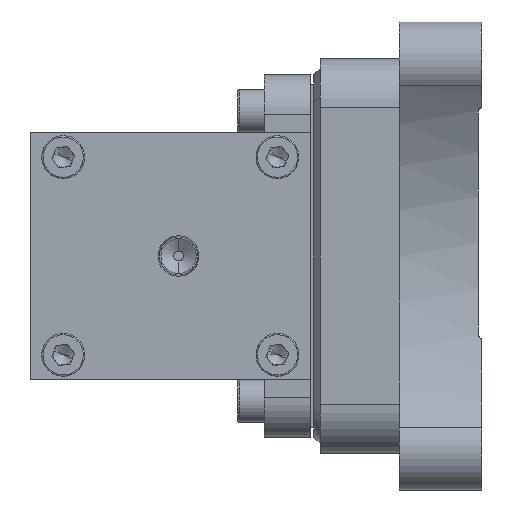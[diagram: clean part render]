
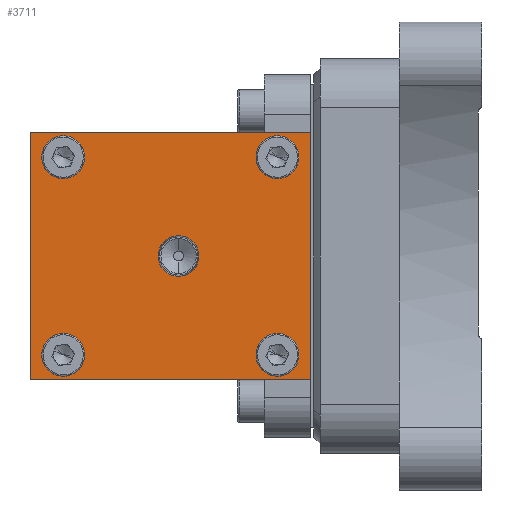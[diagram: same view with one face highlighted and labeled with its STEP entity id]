
A CAD part, left-side view. The second image highlights one B-rep face of the part: STEP entity #3711.
In plain terms, the highlighted planar face has unit normal (-1, 0, 0) as drawn and (1, 0, 0) by its records, which use the part's own axes.
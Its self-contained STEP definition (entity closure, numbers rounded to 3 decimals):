
#48 = EDGE_LOOP ( 'NONE', ( #8311, #9078 ) ) ;
#81 = EDGE_CURVE ( 'NONE', #3548, #6862, #902, .T. ) ;
#244 = DIRECTION ( 'NONE',  ( 0., 0., -1. ) ) ;
#336 = ORIENTED_EDGE ( 'NONE', *, *, #8266, .F. ) ;
#359 = CARTESIAN_POINT ( 'NONE',  ( 93., 41., 0. ) ) ;
#612 = VECTOR ( 'NONE', #742, 1000. ) ;
#730 = CIRCLE ( 'NONE', #2223, 4. ) ;
#742 = DIRECTION ( 'NONE',  ( 0., 0., -1. ) ) ;
#893 = FACE_BOUND ( 'NONE', #5819, .T. ) ;
#901 = ORIENTED_EDGE ( 'NONE', *, *, #2949, .F. ) ;
#902 = CIRCLE ( 'NONE', #8442, 6.154 ) ;
#1024 = VERTEX_POINT ( 'NONE', #5896 ) ;
#1042 = DIRECTION ( 'NONE',  ( 0., 1., 0. ) ) ;
#1087 = AXIS2_PLACEMENT_3D ( 'NONE', #1925, #6551, #1272 ) ;
#1131 = FACE_BOUND ( 'NONE', #4029, .T. ) ;
#1158 = AXIS2_PLACEMENT_3D ( 'NONE', #9850, #4575, #8383 ) ;
#1185 = AXIS2_PLACEMENT_3D ( 'NONE', #4276, #4307, #4332 ) ;
#1217 = CIRCLE ( 'NONE', #8365, 6.154 ) ;
#1250 = ORIENTED_EDGE ( 'NONE', *, *, #7626, .T. ) ;
#1272 = DIRECTION ( 'NONE',  ( 0., 0., -1. ) ) ;
#1403 = ORIENTED_EDGE ( 'NONE', *, *, #8088, .F. ) ;
#1676 = DIRECTION ( 'NONE',  ( 0., 0., 1. ) ) ;
#1712 = EDGE_CURVE ( 'NONE', #8130, #3098, #4941, .T. ) ;
#1775 = AXIS2_PLACEMENT_3D ( 'NONE', #3669, #2119, #2258 ) ;
#1787 = CARTESIAN_POINT ( 'NONE',  ( 93., 86., -37.5 ) ) ;
#1907 = ORIENTED_EDGE ( 'NONE', *, *, #1712, .F. ) ;
#1925 = CARTESIAN_POINT ( 'NONE',  ( 93., 11., 30. ) ) ;
#2013 = DIRECTION ( 'NONE',  ( 1., 0., 0. ) ) ;
#2119 = DIRECTION ( 'NONE',  ( 1., 0., 0. ) ) ;
#2223 = AXIS2_PLACEMENT_3D ( 'NONE', #9306, #7038, #4703 ) ;
#2244 = CARTESIAN_POINT ( 'NONE',  ( 93., 11., -30. ) ) ;
#2258 = DIRECTION ( 'NONE',  ( 0., 0., -1. ) ) ;
#2267 = VERTEX_POINT ( 'NONE', #6297 ) ;
#2295 = CARTESIAN_POINT ( 'NONE',  ( 93., 86., 37.5 ) ) ;
#2652 = EDGE_CURVE ( 'NONE', #1024, #8338, #5268, .T. ) ;
#2785 = DIRECTION ( 'NONE',  ( 1., 0., 0. ) ) ;
#2815 = DIRECTION ( 'NONE',  ( 0., 0., -1. ) ) ;
#2949 = EDGE_CURVE ( 'NONE', #7109, #2267, #9383, .T. ) ;
#2971 = VERTEX_POINT ( 'NONE', #3549 ) ;
#3002 = EDGE_CURVE ( 'NONE', #3098, #8130, #6815, .T. ) ;
#3092 = DIRECTION ( 'NONE',  ( 0., 0., -1. ) ) ;
#3098 = VERTEX_POINT ( 'NONE', #9838 ) ;
#3210 = LINE ( 'NONE', #7716, #5076 ) ;
#3323 = DIRECTION ( 'NONE',  ( 1., 0., 0. ) ) ;
#3363 = ORIENTED_EDGE ( 'NONE', *, *, #4769, .F. ) ;
#3370 = CARTESIAN_POINT ( 'NONE',  ( 93., 76., 26. ) ) ;
#3548 = VERTEX_POINT ( 'NONE', #5459 ) ;
#3549 = CARTESIAN_POINT ( 'NONE',  ( 93., 86., -37.5 ) ) ;
#3559 = CARTESIAN_POINT ( 'NONE',  ( 93., 76., -34. ) ) ;
#3669 = CARTESIAN_POINT ( 'NONE',  ( 93., 76., -30. ) ) ;
#3711 = ADVANCED_FACE ( 'NONE', ( #8078, #4956, #4482, #7344, #1131, #893 ), #4533, .F. ) ;
#3786 = AXIS2_PLACEMENT_3D ( 'NONE', #2244, #3789, #4545 ) ;
#3789 = DIRECTION ( 'NONE',  ( 1., 0., 0. ) ) ;
#3814 = CARTESIAN_POINT ( 'NONE',  ( 93., 1., 37.5 ) ) ;
#4029 = EDGE_LOOP ( 'NONE', ( #1907, #4959 ) ) ;
#4155 = EDGE_CURVE ( 'NONE', #9580, #9678, #9768, .T. ) ;
#4236 = LINE ( 'NONE', #4462, #5664 ) ;
#4272 = EDGE_LOOP ( 'NONE', ( #6286, #7142 ) ) ;
#4276 = CARTESIAN_POINT ( 'NONE',  ( 93., 11., 30. ) ) ;
#4307 = DIRECTION ( 'NONE',  ( 1., 0., 0. ) ) ;
#4332 = DIRECTION ( 'NONE',  ( 0., 0., -1. ) ) ;
#4462 = CARTESIAN_POINT ( 'NONE',  ( 93., 86., 37.5 ) ) ;
#4482 = FACE_BOUND ( 'NONE', #48, .T. ) ;
#4508 = VERTEX_POINT ( 'NONE', #3559 ) ;
#4533 = PLANE ( 'NONE',  #6335 ) ;
#4545 = DIRECTION ( 'NONE',  ( 0., 0., -1. ) ) ;
#4575 = DIRECTION ( 'NONE',  ( 1., 0., 0. ) ) ;
#4666 = DIRECTION ( 'NONE',  ( 0., 1., 0. ) ) ;
#4703 = DIRECTION ( 'NONE',  ( 0., 0., -1. ) ) ;
#4769 = EDGE_CURVE ( 'NONE', #7146, #2971, #3210, .T. ) ;
#4862 = CARTESIAN_POINT ( 'NONE',  ( 93., 41., 0. ) ) ;
#4941 = CIRCLE ( 'NONE', #3786, 4. ) ;
#4956 = FACE_BOUND ( 'NONE', #4272, .T. ) ;
#4959 = ORIENTED_EDGE ( 'NONE', *, *, #3002, .F. ) ;
#5076 = VECTOR ( 'NONE', #3092, 1000. ) ;
#5245 = VERTEX_POINT ( 'NONE', #6545 ) ;
#5268 = LINE ( 'NONE', #3814, #612 ) ;
#5307 = AXIS2_PLACEMENT_3D ( 'NONE', #9710, #2785, #2815 ) ;
#5360 = EDGE_CURVE ( 'NONE', #4508, #5245, #6496, .T. ) ;
#5459 = CARTESIAN_POINT ( 'NONE',  ( 93., 41., 6.154 ) ) ;
#5664 = VECTOR ( 'NONE', #4666, 1000. ) ;
#5819 = EDGE_LOOP ( 'NONE', ( #6273, #8122 ) ) ;
#5896 = CARTESIAN_POINT ( 'NONE',  ( 93., 1., 37.5 ) ) ;
#5976 = EDGE_LOOP ( 'NONE', ( #1250, #3363, #336, #9301 ) ) ;
#6057 = CARTESIAN_POINT ( 'NONE',  ( 93., 11., -34. ) ) ;
#6109 = DIRECTION ( 'NONE',  ( -1., 0., 0. ) ) ;
#6273 = ORIENTED_EDGE ( 'NONE', *, *, #6383, .F. ) ;
#6286 = ORIENTED_EDGE ( 'NONE', *, *, #4155, .F. ) ;
#6297 = CARTESIAN_POINT ( 'NONE',  ( 93., 11., 26. ) ) ;
#6335 = AXIS2_PLACEMENT_3D ( 'NONE', #2295, #6109, #1676 ) ;
#6365 = CIRCLE ( 'NONE', #9089, 4. ) ;
#6383 = EDGE_CURVE ( 'NONE', #6862, #3548, #1217, .T. ) ;
#6496 = CIRCLE ( 'NONE', #1775, 4. ) ;
#6497 = DIRECTION ( 'NONE',  ( 0., 0., -1. ) ) ;
#6545 = CARTESIAN_POINT ( 'NONE',  ( 93., 76., -26. ) ) ;
#6551 = DIRECTION ( 'NONE',  ( 1., 0., 0. ) ) ;
#6571 = LINE ( 'NONE', #1787, #8037 ) ;
#6815 = CIRCLE ( 'NONE', #5307, 4. ) ;
#6862 = VERTEX_POINT ( 'NONE', #6939 ) ;
#6926 = CARTESIAN_POINT ( 'NONE',  ( 93., 1., -37.5 ) ) ;
#6939 = CARTESIAN_POINT ( 'NONE',  ( 93., 41., -6.154 ) ) ;
#7038 = DIRECTION ( 'NONE',  ( 1., 0., 0. ) ) ;
#7109 = VERTEX_POINT ( 'NONE', #8825 ) ;
#7142 = ORIENTED_EDGE ( 'NONE', *, *, #8466, .F. ) ;
#7146 = VERTEX_POINT ( 'NONE', #8128 ) ;
#7176 = CARTESIAN_POINT ( 'NONE',  ( 93., 76., 34. ) ) ;
#7344 = FACE_BOUND ( 'NONE', #8306, .T. ) ;
#7535 = EDGE_CURVE ( 'NONE', #5245, #4508, #730, .T. ) ;
#7626 = EDGE_CURVE ( 'NONE', #8338, #2971, #6571, .T. ) ;
#7716 = CARTESIAN_POINT ( 'NONE',  ( 93., 86., 37.5 ) ) ;
#7814 = DIRECTION ( 'NONE',  ( 0., 0., -1. ) ) ;
#8037 = VECTOR ( 'NONE', #1042, 1000. ) ;
#8078 = FACE_OUTER_BOUND ( 'NONE', #5976, .T. ) ;
#8088 = EDGE_CURVE ( 'NONE', #2267, #7109, #9764, .T. ) ;
#8122 = ORIENTED_EDGE ( 'NONE', *, *, #81, .F. ) ;
#8128 = CARTESIAN_POINT ( 'NONE',  ( 93., 86., 37.5 ) ) ;
#8130 = VERTEX_POINT ( 'NONE', #6057 ) ;
#8266 = EDGE_CURVE ( 'NONE', #1024, #7146, #4236, .T. ) ;
#8306 = EDGE_LOOP ( 'NONE', ( #1403, #901 ) ) ;
#8311 = ORIENTED_EDGE ( 'NONE', *, *, #5360, .F. ) ;
#8338 = VERTEX_POINT ( 'NONE', #6926 ) ;
#8365 = AXIS2_PLACEMENT_3D ( 'NONE', #4862, #8727, #244 ) ;
#8383 = DIRECTION ( 'NONE',  ( 0., 0., -1. ) ) ;
#8442 = AXIS2_PLACEMENT_3D ( 'NONE', #359, #2013, #6497 ) ;
#8466 = EDGE_CURVE ( 'NONE', #9678, #9580, #6365, .T. ) ;
#8578 = CARTESIAN_POINT ( 'NONE',  ( 93., 76., 30. ) ) ;
#8727 = DIRECTION ( 'NONE',  ( 1., 0., 0. ) ) ;
#8825 = CARTESIAN_POINT ( 'NONE',  ( 93., 11., 34. ) ) ;
#9078 = ORIENTED_EDGE ( 'NONE', *, *, #7535, .F. ) ;
#9089 = AXIS2_PLACEMENT_3D ( 'NONE', #8578, #3323, #7814 ) ;
#9301 = ORIENTED_EDGE ( 'NONE', *, *, #2652, .T. ) ;
#9306 = CARTESIAN_POINT ( 'NONE',  ( 93., 76., -30. ) ) ;
#9383 = CIRCLE ( 'NONE', #1087, 4. ) ;
#9580 = VERTEX_POINT ( 'NONE', #3370 ) ;
#9678 = VERTEX_POINT ( 'NONE', #7176 ) ;
#9710 = CARTESIAN_POINT ( 'NONE',  ( 93., 11., -30. ) ) ;
#9764 = CIRCLE ( 'NONE', #1185, 4. ) ;
#9768 = CIRCLE ( 'NONE', #1158, 4. ) ;
#9838 = CARTESIAN_POINT ( 'NONE',  ( 93., 11., -26. ) ) ;
#9850 = CARTESIAN_POINT ( 'NONE',  ( 93., 76., 30. ) ) ;
